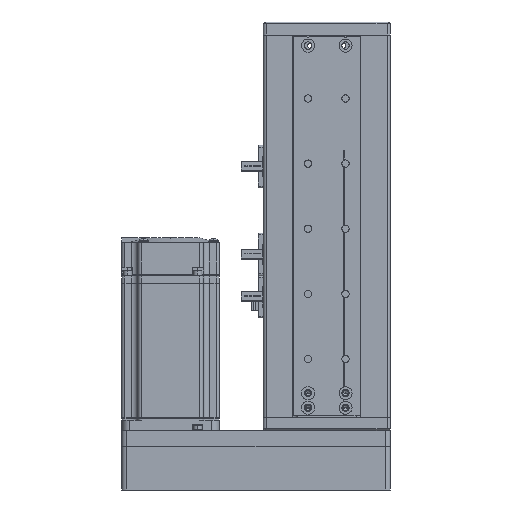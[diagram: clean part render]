
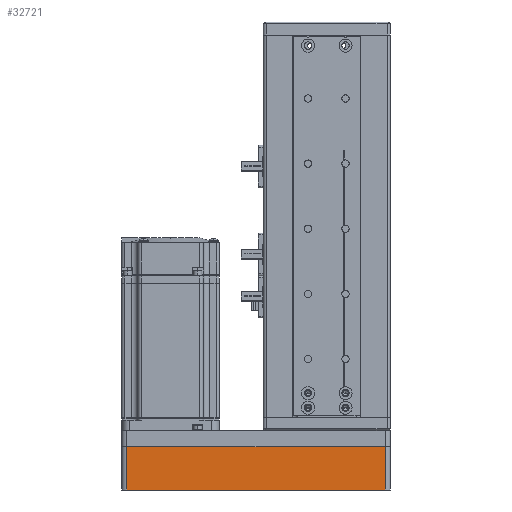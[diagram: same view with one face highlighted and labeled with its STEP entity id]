
A CAD part, front view. The second image highlights one B-rep face of the part: STEP entity #32721.
In plain terms, the highlighted planar face has unit normal (0, -1, 0).
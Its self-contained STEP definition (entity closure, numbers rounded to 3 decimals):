
#409 = FACE_OUTER_BOUND ( 'NONE', #20477, .T. ) ;
#1669 = CARTESIAN_POINT ( 'NONE',  ( 79.5, -30., 26.5 ) ) ;
#5933 = VECTOR ( 'NONE', #30124, 1000. ) ;
#6433 = VECTOR ( 'NONE', #30393, 1000. ) ;
#9175 = EDGE_CURVE ( 'NONE', #33417, #33709, #15515, .T. ) ;
#11486 = CARTESIAN_POINT ( 'NONE',  ( 82.5, -30., 26.5 ) ) ;
#12774 = VECTOR ( 'NONE', #39357, 1000. ) ;
#13506 = ORIENTED_EDGE ( 'NONE', *, *, #9175, .F. ) ;
#13509 = DIRECTION ( 'NONE',  ( 0., 0., -1. ) ) ;
#14351 = CARTESIAN_POINT ( 'NONE',  ( 82.5, -30., 0. ) ) ;
#14778 = CARTESIAN_POINT ( 'NONE',  ( -79.5, -30., 0. ) ) ;
#15142 = DIRECTION ( 'NONE',  ( -1., 0., 0. ) ) ;
#15515 = LINE ( 'NONE', #15752, #5933 ) ;
#15752 = CARTESIAN_POINT ( 'NONE',  ( 82.5, -30., 26.5 ) ) ;
#17931 = EDGE_CURVE ( 'NONE', #45736, #32821, #31798, .T. ) ;
#18800 = EDGE_CURVE ( 'NONE', #32821, #33709, #44516, .T. ) ;
#19406 = ORIENTED_EDGE ( 'NONE', *, *, #24496, .T. ) ;
#20477 = EDGE_LOOP ( 'NONE', ( #42902, #44821, #13506, #19406 ) ) ;
#24496 = EDGE_CURVE ( 'NONE', #33417, #45736, #45920, .T. ) ;
#25934 = AXIS2_PLACEMENT_3D ( 'NONE', #11486, #36548, #15142 ) ;
#29359 = PLANE ( 'NONE',  #25934 ) ;
#29840 = CARTESIAN_POINT ( 'NONE',  ( 79.5, -30., 0. ) ) ;
#29873 = CARTESIAN_POINT ( 'NONE',  ( 79.5, -30., 26.5 ) ) ;
#30124 = DIRECTION ( 'NONE',  ( 1., 0., 0. ) ) ;
#30393 = DIRECTION ( 'NONE',  ( 0., 0., 1. ) ) ;
#31798 = LINE ( 'NONE', #14351, #12774 ) ;
#32721 = ADVANCED_FACE ( 'NONE', ( #409 ), #29359, .F. ) ;
#32821 = VERTEX_POINT ( 'NONE', #29840 ) ;
#33417 = VERTEX_POINT ( 'NONE', #38180 ) ;
#33709 = VERTEX_POINT ( 'NONE', #29873 ) ;
#34914 = CARTESIAN_POINT ( 'NONE',  ( -79.5, -30., 26.5 ) ) ;
#36440 = VECTOR ( 'NONE', #13509, 1000. ) ;
#36548 = DIRECTION ( 'NONE',  ( 0., 1., 0. ) ) ;
#38180 = CARTESIAN_POINT ( 'NONE',  ( -79.5, -30., 26.5 ) ) ;
#39357 = DIRECTION ( 'NONE',  ( 1., 0., 0. ) ) ;
#42902 = ORIENTED_EDGE ( 'NONE', *, *, #17931, .T. ) ;
#44516 = LINE ( 'NONE', #1669, #6433 ) ;
#44821 = ORIENTED_EDGE ( 'NONE', *, *, #18800, .T. ) ;
#45736 = VERTEX_POINT ( 'NONE', #14778 ) ;
#45920 = LINE ( 'NONE', #34914, #36440 ) ;
